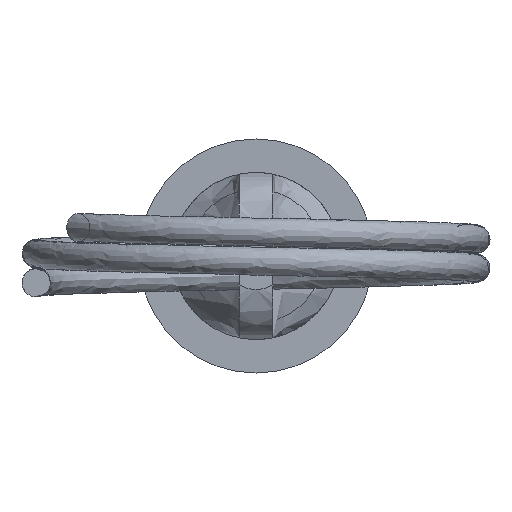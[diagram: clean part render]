
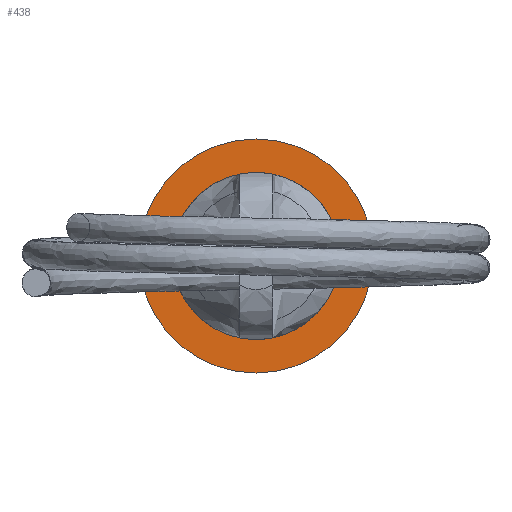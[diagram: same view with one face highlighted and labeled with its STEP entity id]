
A CAD part, left-side view. The second image highlights one B-rep face of the part: STEP entity #438.
In plain terms, the highlighted planar face has unit normal (-1, 0, 0).
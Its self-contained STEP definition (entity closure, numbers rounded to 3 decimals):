
#49=FACE_BOUND('',#156,.T.);
#56=PLANE('',#496);
#121=FACE_OUTER_BOUND('',#155,.T.);
#155=EDGE_LOOP('',(#391,#392));
#156=EDGE_LOOP('',(#393,#394));
#182=CIRCLE('',#480,5.);
#185=CIRCLE('',#484,7.);
#192=CIRCLE('',#495,7.);
#193=CIRCLE('',#497,5.);
#231=VERTEX_POINT('',#867);
#232=VERTEX_POINT('',#870);
#234=VERTEX_POINT('',#875);
#237=VERTEX_POINT('',#881);
#281=EDGE_CURVE('',#232,#231,#182,.T.);
#286=EDGE_CURVE('',#234,#237,#185,.T.);
#293=EDGE_CURVE('',#237,#234,#192,.T.);
#294=EDGE_CURVE('',#231,#232,#193,.T.);
#391=ORIENTED_EDGE('',*,*,#286,.T.);
#392=ORIENTED_EDGE('',*,*,#293,.T.);
#393=ORIENTED_EDGE('',*,*,#294,.F.);
#394=ORIENTED_EDGE('',*,*,#281,.F.);
#438=ADVANCED_FACE('',(#121,#49),#56,.T.);
#480=AXIS2_PLACEMENT_3D('',#872,#591,#592);
#484=AXIS2_PLACEMENT_3D('',#883,#601,#602);
#495=AXIS2_PLACEMENT_3D('',#897,#623,#624);
#496=AXIS2_PLACEMENT_3D('',#898,#625,#626);
#497=AXIS2_PLACEMENT_3D('',#899,#627,#628);
#591=DIRECTION('center_axis',(-1.,0.,0.));
#592=DIRECTION('ref_axis',(0.,1.,0.));
#601=DIRECTION('center_axis',(-1.,0.,0.));
#602=DIRECTION('ref_axis',(0.,1.,0.));
#623=DIRECTION('center_axis',(-1.,0.,0.));
#624=DIRECTION('ref_axis',(0.,1.,0.));
#625=DIRECTION('center_axis',(-1.,0.,0.));
#626=DIRECTION('ref_axis',(0.,0.,1.));
#627=DIRECTION('center_axis',(-1.,0.,0.));
#628=DIRECTION('ref_axis',(0.,1.,0.));
#867=CARTESIAN_POINT('',(0.,5.,0.));
#870=CARTESIAN_POINT('',(0.,-5.,0.));
#872=CARTESIAN_POINT('Origin',(0.,0.,0.));
#875=CARTESIAN_POINT('',(0.,7.,0.));
#881=CARTESIAN_POINT('',(0.,-7.,0.));
#883=CARTESIAN_POINT('Origin',(0.,0.,0.));
#897=CARTESIAN_POINT('Origin',(0.,0.,0.));
#898=CARTESIAN_POINT('Origin',(0.,6.,0.));
#899=CARTESIAN_POINT('Origin',(0.,0.,0.));
